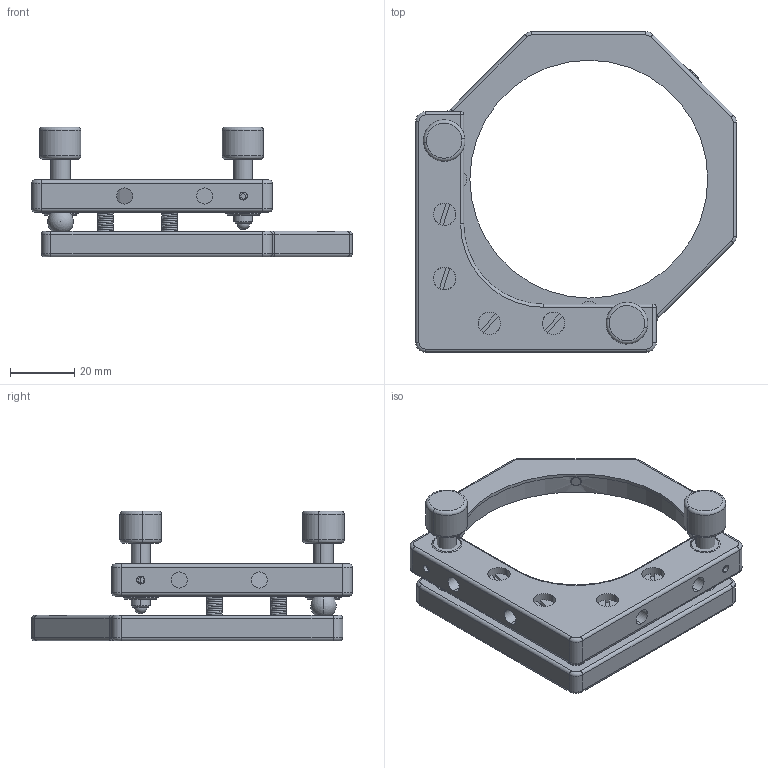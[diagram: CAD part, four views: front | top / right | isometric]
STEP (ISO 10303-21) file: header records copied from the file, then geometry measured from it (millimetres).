
FILE_DESCRIPTION (( 'STEP AP203' ), '1' );
FILE_NAME ('7MM07762謗峎覃淕噩殤.STEP', '2019-10-17T09:07:25', ( '' ), ( '' ), 'SwSTEP 2.0', 'SolidWorks 2014', '' );
FILE_SCHEMA (( 'CONFIG_CONTROL_DESIGN' ));
Length unit declared in the file: millimetre
Products named in the file (1): 7MM07762謗峎覃淕噩殤
Bounding box: 100 x 100 x 40.5 mm (x, y, z)
Surface area: 25002.1 mm2 (no closed solid volume)
Topology: 0 solids, 36 shells, 277 faces, 734 edges, 481 vertices
Faces by surface type: cylinder 113, plane 92, torus 34, cone 20, sphere 10, bspline 8
Entity records: 19009 total; most frequent: CARTESIAN_POINT 12083, DIRECTION 1603, ORIENTED_EDGE 1184, EDGE_CURVE 709, AXIS2_PLACEMENT_3D 658, VERTEX_POINT 472, CIRCLE 388, EDGE_LOOP 327
